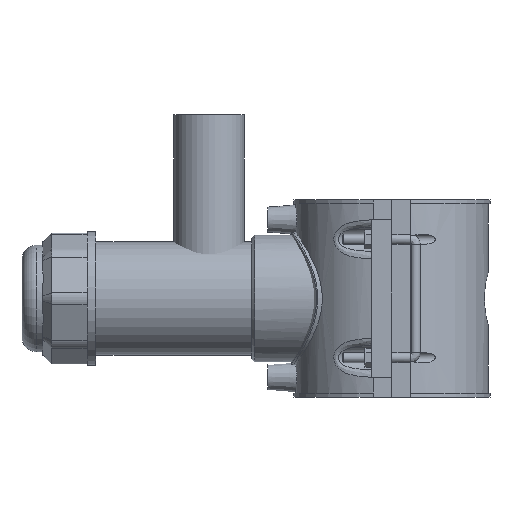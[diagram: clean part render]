
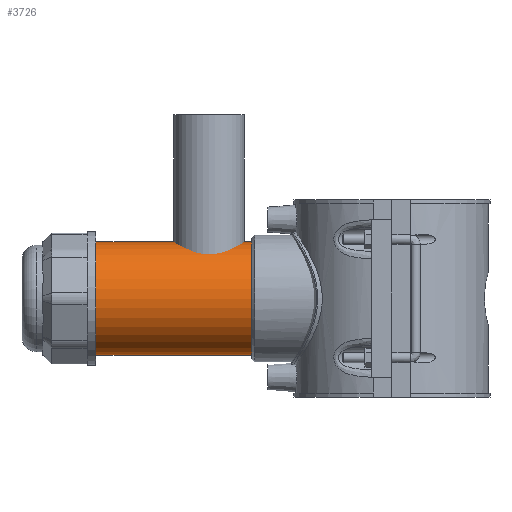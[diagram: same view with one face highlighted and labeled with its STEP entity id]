
A CAD part, left-side view. The second image highlights one B-rep face of the part: STEP entity #3726.
In plain terms, the highlighted cylindrical face has radius 33.928 mm (diameter 67.856 mm), a full revolution.
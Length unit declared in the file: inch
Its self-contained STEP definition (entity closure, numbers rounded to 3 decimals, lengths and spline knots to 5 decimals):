
#317=CIRCLE('',#4055,1.33574);
#318=CIRCLE('',#4056,1.33574);
#333=CIRCLE('',#4087,1.33574);
#334=CIRCLE('',#4088,1.33574);
#548=FACE_OUTER_BOUND('',#774,.T.);
#774=EDGE_LOOP('',(#3440,#3441,#3442,#3443,#3444,#3445));
#1100=LINE('',#7836,#1420);
#1420=VECTOR('',#5091,1.33574);
#1818=VERTEX_POINT('',#7770);
#1819=VERTEX_POINT('',#7771);
#1835=VERTEX_POINT('',#7832);
#1836=VERTEX_POINT('',#7833);
#2345=EDGE_CURVE('',#1818,#1819,#317,.T.);
#2346=EDGE_CURVE('',#1819,#1818,#318,.T.);
#2374=EDGE_CURVE('',#1835,#1836,#333,.T.);
#2375=EDGE_CURVE('',#1836,#1835,#334,.T.);
#2376=EDGE_CURVE('',#1836,#1819,#1100,.T.);
#3440=ORIENTED_EDGE('',*,*,#2374,.F.);
#3441=ORIENTED_EDGE('',*,*,#2375,.F.);
#3442=ORIENTED_EDGE('',*,*,#2376,.T.);
#3443=ORIENTED_EDGE('',*,*,#2346,.T.);
#3444=ORIENTED_EDGE('',*,*,#2345,.T.);
#3445=ORIENTED_EDGE('',*,*,#2376,.F.);
#3525=CYLINDRICAL_SURFACE('',#4086,1.33574);
#3726=ADVANCED_FACE('',(#548),#3525,.T.);
#4055=AXIS2_PLACEMENT_3D('',#7772,#5010,#5011);
#4056=AXIS2_PLACEMENT_3D('',#7773,#5012,#5013);
#4086=AXIS2_PLACEMENT_3D('',#7831,#5085,#5086);
#4087=AXIS2_PLACEMENT_3D('',#7834,#5087,#5088);
#4088=AXIS2_PLACEMENT_3D('',#7835,#5089,#5090);
#5010=DIRECTION('center_axis',(0.,1.,0.));
#5011=DIRECTION('ref_axis',(1.,0.,0.));
#5012=DIRECTION('center_axis',(0.,1.,0.));
#5013=DIRECTION('ref_axis',(1.,0.,0.));
#5085=DIRECTION('center_axis',(0.,1.,0.));
#5086=DIRECTION('ref_axis',(0.,0.,1.));
#5087=DIRECTION('center_axis',(0.,1.,0.));
#5088=DIRECTION('ref_axis',(1.,0.,0.));
#5089=DIRECTION('center_axis',(0.,1.,0.));
#5090=DIRECTION('ref_axis',(1.,0.,0.));
#5091=DIRECTION('',(0.,-1.,0.));
#7770=CARTESIAN_POINT('',(0.,3.3042,1.33574));
#7771=CARTESIAN_POINT('',(0.,3.3042,-1.33574));
#7772=CARTESIAN_POINT('Origin',(0.,3.3042,0.));
#7773=CARTESIAN_POINT('Origin',(0.,3.3042,0.));
#7831=CARTESIAN_POINT('Origin',(0.,5.13888,0.));
#7832=CARTESIAN_POINT('',(0.,6.97356,1.33574));
#7833=CARTESIAN_POINT('',(0.,6.97356,-1.33574));
#7834=CARTESIAN_POINT('Origin',(0.,6.97356,0.));
#7835=CARTESIAN_POINT('Origin',(0.,6.97356,0.));
#7836=CARTESIAN_POINT('',(0.,5.13888,-1.33574));
